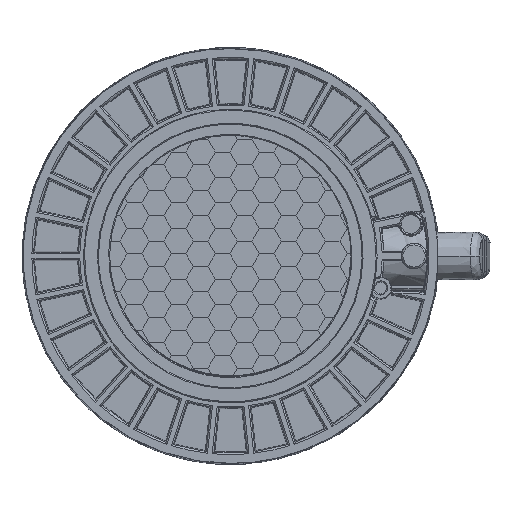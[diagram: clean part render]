
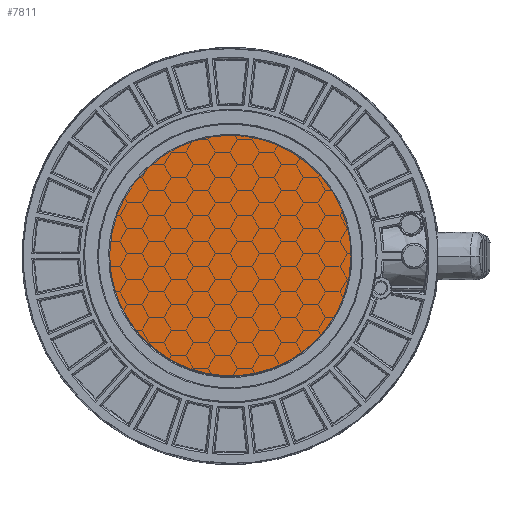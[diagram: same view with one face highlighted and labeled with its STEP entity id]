
A CAD part, front view. The second image highlights one B-rep face of the part: STEP entity #7811.
In plain terms, the highlighted planar face has unit normal (0, -1, 0).
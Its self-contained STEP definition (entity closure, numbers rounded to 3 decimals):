
#3896=B_SPLINE_CURVE_WITH_KNOTS('',1,(#121652,#121653),.UNSPECIFIED.,.F.,
 .F.,(2,2),(0.,0.038),.UNSPECIFIED.);
#3902=B_SPLINE_CURVE_WITH_KNOTS('',1,(#121723,#121724),.UNSPECIFIED.,.F.,
 .F.,(2,2),(-0.038,0.),.UNSPECIFIED.);
#3920=B_SPLINE_CURVE_WITH_KNOTS('',1,(#121932,#121933),.UNSPECIFIED.,.F.,
 .F.,(2,2),(0.,0.014),.UNSPECIFIED.);
#3921=B_SPLINE_CURVE_WITH_KNOTS('',1,(#121934,#121935),.UNSPECIFIED.,.F.,
 .F.,(2,2),(0.,0.014),.UNSPECIFIED.);
#3922=B_SPLINE_CURVE_WITH_KNOTS('',1,(#121936,#121937),.UNSPECIFIED.,.F.,
 .F.,(2,2),(-0.025,0.),.UNSPECIFIED.);
#3923=B_SPLINE_CURVE_WITH_KNOTS('',3,(#121938,#121939,#121940,#121941,#121942,
#121943,#121944,#121945,#121946,#121947),.UNSPECIFIED.,.F.,.F.,(4,3,3,4),
(0.,0.256,0.513,1.),.UNSPECIFIED.);
#3924=B_SPLINE_CURVE_WITH_KNOTS('',1,(#121948,#121949),.UNSPECIFIED.,.F.,
 .F.,(2,2),(0.,0.021),.UNSPECIFIED.);
#3925=B_SPLINE_CURVE_WITH_KNOTS('',3,(#121950,#121951,#121952,#121953,#121954,
#121955,#121956,#121957,#121958,#121959,#121960,#121961,#121962),
 .UNSPECIFIED.,.F.,.F.,(4,3,3,3,4),(-1.,-0.828,-0.501,
-0.011,0.),.UNSPECIFIED.);
#7811=ADVANCED_FACE('',(#10627),#47214,.T.);
#10627=FACE_OUTER_BOUND('',#13594,.T.);
#13594=EDGE_LOOP('',(#22013,#22014,#22015,#22016,#22017,#22018,#22019,#22020,
#22021,#22022,#22023,#22024));
#22013=ORIENTED_EDGE('',*,*,#32105,.T.);
#22014=ORIENTED_EDGE('',*,*,#32066,.T.);
#22015=ORIENTED_EDGE('',*,*,#32188,.T.);
#22016=ORIENTED_EDGE('',*,*,#32067,.T.);
#22017=ORIENTED_EDGE('',*,*,#32152,.T.);
#22018=ORIENTED_EDGE('',*,*,#32068,.T.);
#22019=ORIENTED_EDGE('',*,*,#32069,.T.);
#22020=ORIENTED_EDGE('',*,*,#32070,.T.);
#22021=ORIENTED_EDGE('',*,*,#32072,.T.);
#22022=ORIENTED_EDGE('',*,*,#32014,.T.);
#22023=ORIENTED_EDGE('',*,*,#32071,.F.);
#22024=ORIENTED_EDGE('',*,*,#32007,.T.);
#32007=EDGE_CURVE('',#42898,#42899,#3896,.T.);
#32014=EDGE_CURVE('',#42901,#42900,#3902,.T.);
#32066=EDGE_CURVE('',#42925,#42926,#3920,.T.);
#32067=EDGE_CURVE('',#42927,#42928,#3921,.T.);
#32068=EDGE_CURVE('',#42929,#42930,#3922,.T.);
#32069=EDGE_CURVE('',#42930,#42931,#3923,.T.);
#32070=EDGE_CURVE('',#42931,#42932,#3924,.T.);
#32071=EDGE_CURVE('',#42898,#42900,#3925,.T.);
#32072=EDGE_CURVE('',#42932,#42901,#38183,.T.);
#32105=EDGE_CURVE('',#42899,#42925,#38211,.T.);
#32152=EDGE_CURVE('',#42928,#42929,#38237,.T.);
#32188=EDGE_CURVE('',#42926,#42927,#38245,.T.);
#38183=(
BOUNDED_CURVE()
B_SPLINE_CURVE(2,(#121963,#121964,#121965,#121966,#121967),
 .UNSPECIFIED.,.F.,.F.)
B_SPLINE_CURVE_WITH_KNOTS((3,2,3),(0.,42.388,84.776),
 .UNSPECIFIED.)
CURVE()
GEOMETRIC_REPRESENTATION_ITEM()
RATIONAL_B_SPLINE_CURVE((1.,0.878,1.,0.878,1.))
REPRESENTATION_ITEM('')
);
#38211=(
BOUNDED_CURVE()
B_SPLINE_CURVE(2,(#122139,#122140,#122141,#122142,#122143),
 .UNSPECIFIED.,.F.,.F.)
B_SPLINE_CURVE_WITH_KNOTS((3,2,3),(0.,42.412,84.825),
 .UNSPECIFIED.)
CURVE()
GEOMETRIC_REPRESENTATION_ITEM()
RATIONAL_B_SPLINE_CURVE((1.,0.878,1.,0.878,1.))
REPRESENTATION_ITEM('')
);
#38237=(
BOUNDED_CURVE()
B_SPLINE_CURVE(2,(#122423,#122424,#122425,#122426,#122427),
 .UNSPECIFIED.,.F.,.F.)
B_SPLINE_CURVE_WITH_KNOTS((3,2,3),(0.,42.497,84.993),
 .UNSPECIFIED.)
CURVE()
GEOMETRIC_REPRESENTATION_ITEM()
RATIONAL_B_SPLINE_CURVE((1.,0.878,1.,0.878,1.))
REPRESENTATION_ITEM('')
);
#38245=(
BOUNDED_CURVE()
B_SPLINE_CURVE(2,(#122634,#122635,#122636),.UNSPECIFIED.,.F.,.F.)
B_SPLINE_CURVE_WITH_KNOTS((3,3),(0.,4.085),.UNSPECIFIED.)
CURVE()
GEOMETRIC_REPRESENTATION_ITEM()
RATIONAL_B_SPLINE_CURVE((1.,0.999,1.))
REPRESENTATION_ITEM('')
);
#42898=VERTEX_POINT('',#120254);
#42899=VERTEX_POINT('',#120255);
#42900=VERTEX_POINT('',#120256);
#42901=VERTEX_POINT('',#120257);
#42925=VERTEX_POINT('',#120281);
#42926=VERTEX_POINT('',#120282);
#42927=VERTEX_POINT('',#120283);
#42928=VERTEX_POINT('',#120284);
#42929=VERTEX_POINT('',#120285);
#42930=VERTEX_POINT('',#120286);
#42931=VERTEX_POINT('',#120287);
#42932=VERTEX_POINT('',#120288);
#47214=PLANE('',#50159);
#50159=AXIS2_PLACEMENT_3D('',#110405,#51078,$);
#51078=DIRECTION('',(0.,-1.,0.));
#110405=CARTESIAN_POINT('',(-103.914,-165.724,26.102));
#120254=CARTESIAN_POINT('',(1.628,-165.724,-42.501));
#120255=CARTESIAN_POINT('',(1.629,-165.724,-42.463));
#120256=CARTESIAN_POINT('',(-2.503,-165.724,-42.459));
#120257=CARTESIAN_POINT('',(-2.504,-165.724,-42.42));
#120281=CARTESIAN_POINT('',(38.007,-165.724,19.006));
#120282=CARTESIAN_POINT('',(38.019,-165.724,19.013));
#120283=CARTESIAN_POINT('',(36.019,-165.724,22.573));
#120284=CARTESIAN_POINT('',(36.007,-165.724,22.566));
#120285=CARTESIAN_POINT('',(-35.507,-165.724,23.346));
#120286=CARTESIAN_POINT('',(-35.529,-165.724,23.358));
#120287=CARTESIAN_POINT('',(-37.648,-165.724,19.753));
#120288=CARTESIAN_POINT('',(-37.63,-165.724,19.742));
#121652=CARTESIAN_POINT('',(1.628,-165.724,-42.501));
#121653=CARTESIAN_POINT('',(1.629,-165.724,-42.463));
#121723=CARTESIAN_POINT('',(-2.504,-165.724,-42.42));
#121724=CARTESIAN_POINT('',(-2.503,-165.724,-42.459));
#121932=CARTESIAN_POINT('',(38.007,-165.724,19.006));
#121933=CARTESIAN_POINT('',(38.019,-165.724,19.013));
#121934=CARTESIAN_POINT('',(36.019,-165.724,22.573));
#121935=CARTESIAN_POINT('',(36.007,-165.724,22.566));
#121936=CARTESIAN_POINT('',(-35.507,-165.724,23.346));
#121937=CARTESIAN_POINT('',(-35.529,-165.724,23.358));
#121938=CARTESIAN_POINT('',(-35.529,-165.724,23.358));
#121939=CARTESIAN_POINT('',(-35.724,-165.724,23.06));
#121940=CARTESIAN_POINT('',(-35.916,-165.724,22.759));
#121941=CARTESIAN_POINT('',(-36.105,-165.724,22.456));
#121942=CARTESIAN_POINT('',(-36.294,-165.724,22.152));
#121943=CARTESIAN_POINT('',(-36.479,-165.724,21.845));
#121944=CARTESIAN_POINT('',(-36.66,-165.724,21.535));
#121945=CARTESIAN_POINT('',(-37.004,-165.724,20.949));
#121946=CARTESIAN_POINT('',(-37.333,-165.724,20.355));
#121947=CARTESIAN_POINT('',(-37.648,-165.724,19.753));
#121948=CARTESIAN_POINT('',(-37.648,-165.724,19.753));
#121949=CARTESIAN_POINT('',(-37.63,-165.724,19.742));
#121950=CARTESIAN_POINT('',(1.628,-165.724,-42.501));
#121951=CARTESIAN_POINT('',(1.392,-165.724,-42.51));
#121952=CARTESIAN_POINT('',(1.155,-165.724,-42.518));
#121953=CARTESIAN_POINT('',(0.918,-165.724,-42.523));
#121954=CARTESIAN_POINT('',(0.468,-165.724,-42.532));
#121955=CARTESIAN_POINT('',(0.018,-165.724,-42.535));
#121956=CARTESIAN_POINT('',(-0.432,-165.724,-42.53));
#121957=CARTESIAN_POINT('',(-1.108,-165.724,-42.524));
#121958=CARTESIAN_POINT('',(-1.784,-165.724,-42.501));
#121959=CARTESIAN_POINT('',(-2.459,-165.724,-42.461));
#121960=CARTESIAN_POINT('',(-2.474,-165.724,-42.461));
#121961=CARTESIAN_POINT('',(-2.488,-165.724,-42.46));
#121962=CARTESIAN_POINT('',(-2.503,-165.724,-42.459));
#121963=CARTESIAN_POINT('',(-37.63,-165.724,19.742));
#121964=CARTESIAN_POINT('',(-48.383,-165.724,-0.754));
#121965=CARTESIAN_POINT('',(-36.996,-165.724,-20.905));
#121966=CARTESIAN_POINT('',(-25.609,-165.724,-41.057));
#121967=CARTESIAN_POINT('',(-2.504,-165.724,-42.42));
#122139=CARTESIAN_POINT('',(1.629,-165.724,-42.463));
#122140=CARTESIAN_POINT('',(24.773,-165.724,-41.575));
#122141=CARTESIAN_POINT('',(36.57,-165.724,-21.643));
#122142=CARTESIAN_POINT('',(48.366,-165.724,-1.71));
#122143=CARTESIAN_POINT('',(38.007,-165.724,19.006));
#122423=CARTESIAN_POINT('',(36.007,-165.724,22.566));
#122424=CARTESIAN_POINT('',(23.678,-165.724,42.239));
#122425=CARTESIAN_POINT('',(0.463,-165.724,42.492));
#122426=CARTESIAN_POINT('',(-22.752,-165.724,42.745));
#122427=CARTESIAN_POINT('',(-35.507,-165.724,23.346));
#122634=CARTESIAN_POINT('',(38.019,-165.724,19.013));
#122635=CARTESIAN_POINT('',(37.105,-165.724,20.841));
#122636=CARTESIAN_POINT('',(36.019,-165.724,22.573));
